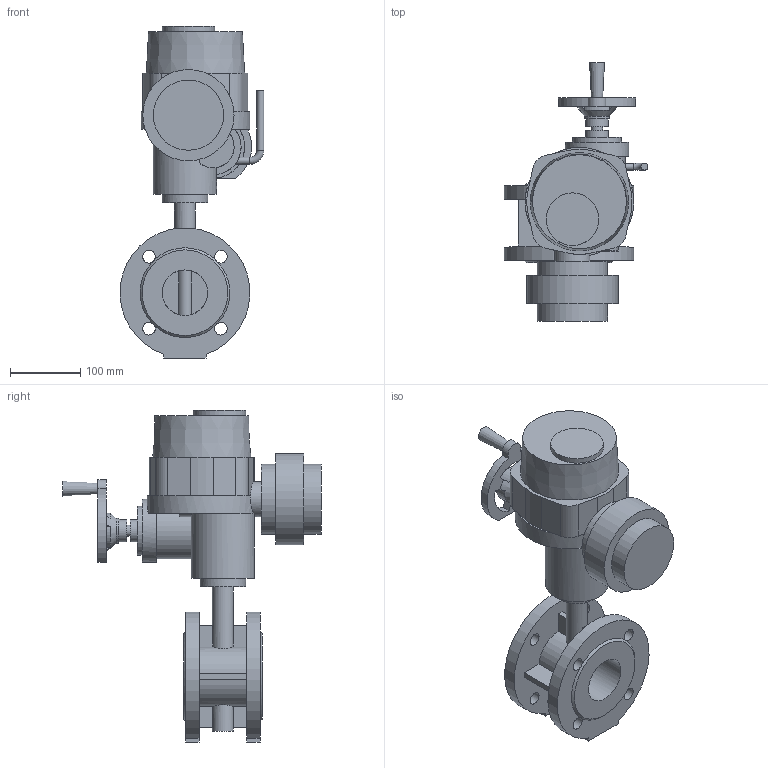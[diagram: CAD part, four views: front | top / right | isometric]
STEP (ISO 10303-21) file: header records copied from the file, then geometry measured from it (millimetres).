
FILE_DESCRIPTION(('STEP AP203'), '1');
FILE_NAME('青蜮铕 021F.Y DN65+菹 QT.A005', '', ('UNSPECIFIED'), ('UNSPECIFIED'), 'ASCON STEP Converter 1.6', 'ASCON Math Kernel', '');
FILE_SCHEMA(('CONFIG_CONTROL_DESIGN'));
Length unit declared in the file: millimetre
Bounding box: 204.89 x 368 x 473 mm (x, y, z)
Volume: 5862929.5 mm3; surface area: 431856.7 mm2
Topology: 1 solids, 1 shells, 179 faces, 457 edges, 298 vertices
Faces by surface type: plane 104, cylinder 69, cone 5, torus 1
Full cylindrical faces by diameter (mm): 6.7 x8, 8 x4, 10 x2, 16 x1, 18 x8, 30 x2, 32 x2, 35 x1, 50 x1, 65 x3, 70 x1, 75 x1, 90 x2, 100 x2, 130 x1
Entity records: 8411 total; most frequent: CARTESIAN_POINT 2613, DIRECTION 937, ORIENTED_EDGE 824, EDGE_CURVE 412, AXIS2_PLACEMENT_3D 377, VERTEX_POINT 298, EDGE_LOOP 264, FACE_BOUND 197
